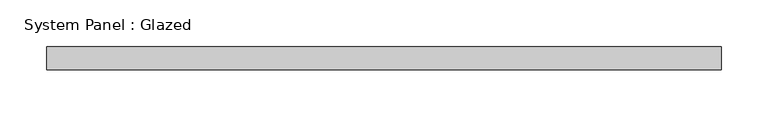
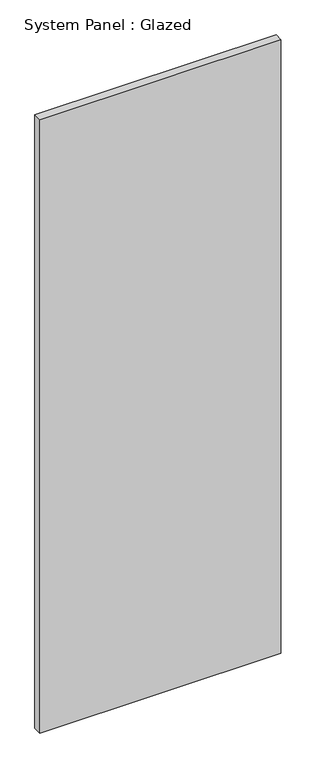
"""IFC4 building model written with IfcOpenShell, lengths in millimetres: plate geometry, System Panel : Glazed."""

from ifc_helpers import new_model, si_unit, origin, origin_with_axes, place, context, project, spatial, polyline, outline, extrude, source, transform, mapped, element, save


def system_panel_glazed_860a73af(model_context):
    return source(origin(), model_context, "Body", "SweptSolid", [
        extrude(outline(polyline([(362.5, -12.5), (-362.5, -12.5), (-362.5, 12.5), (362.5, 12.5), (362.5, -12.5)])), origin_with_axes(), (0.0, 0.0, 1.0), 1950.0),
    ])


if __name__ == "__main__":
    model = new_model("IFC4")
    model_context = context("Model", 3, world=origin())
    ifc_project = project(units=[si_unit("LENGTHUNIT", "METRE", prefix="MILLI")], contexts=[model_context])
    site = spatial("IfcSite", under=ifc_project)
    building = spatial("IfcBuilding", under=site)
    placement = place(None, origin())
    system_panel_glazed_shape = system_panel_glazed_860a73af(model_context)
    element("IfcPlate", 1, ObjectType="System Panel : Glazed", at=placement, inside=building, context=model_context, shape_type="MappedRepresentation", body=[
        mapped(system_panel_glazed_shape, transform((0.0, 0.0, 0.0), x_axis=(1.0, 0.0, 0.0), y_axis=(0.0, 1.0, 0.0), z_axis=(0.0, 0.0, 1.0))),
    ])
    save(model, "model.ifc")
